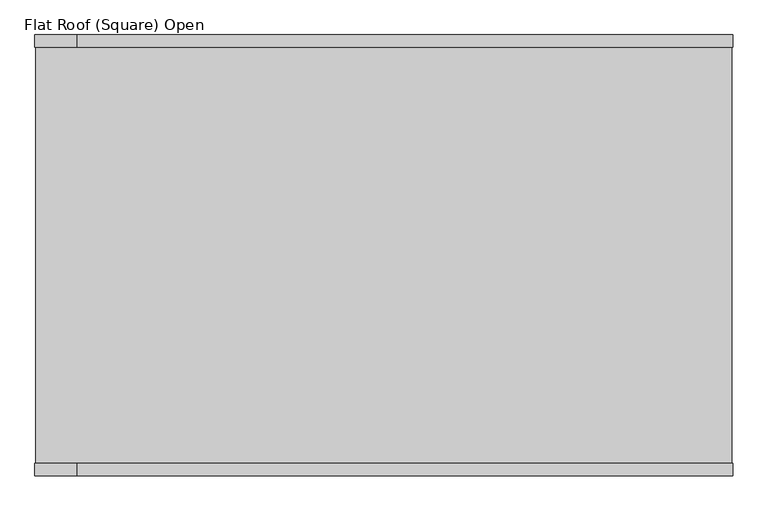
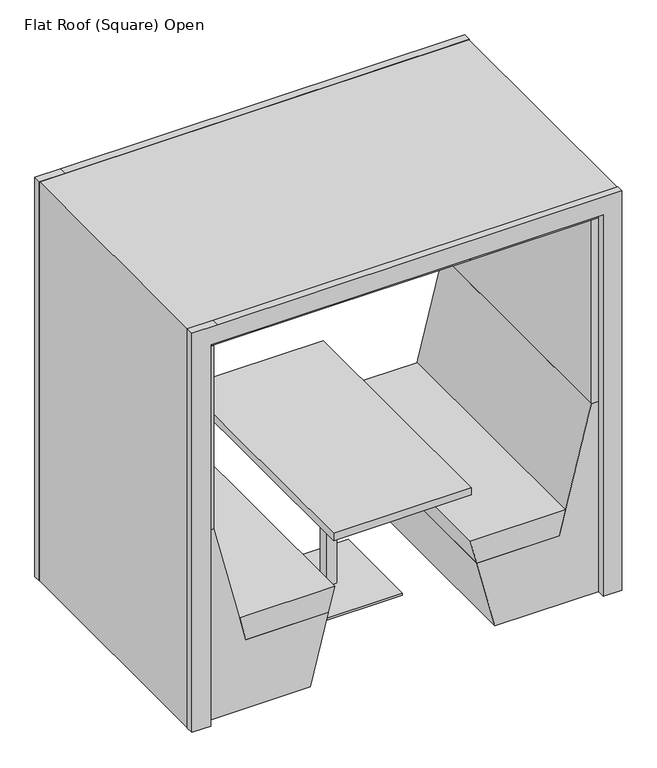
"""IFC4 building model written with IfcOpenShell, lengths in millimetres: furniture geometry, Furniture_WorkPod_Spacestor_RailwayCarriage : Flat Roof (Square) Open."""

from ifc_helpers import new_model, si_unit, point, frame, frame_2d, origin, origin_with_axes, place, context, project, spatial, polyline, circle_curve, trimmed, segment, composite_curve, outline, extrude, source, transform, mapped, element, save


def flat_roof_square_open_a961810b(model_context):
    return source(origin(), model_context, "Body", "SweptSolid", [
        extrude(outline(composite_curve([segment(trimmed(circle_curve(frame_2d((988.5, -1002.0)), 15.0), [point((973.5, -1002.0))], [point((1003.5, -1002.0))], False, "CARTESIAN"), True, "CONTINUOUS"), segment(trimmed(circle_curve(frame_2d((988.5, -1002.0)), 15.0), [point((1003.5, -1002.0))], [point((973.5, -1002.0))], False, "CARTESIAN"), True, "CONTINUOUS")], self_intersect=False)), origin_with_axes(), (0.0, 0.0, 1.0), 15.0),
        extrude(outline(composite_curve([segment(trimmed(circle_curve(frame_2d((-988.5, -1002.0)), 15.0), [point((-1003.5, -1002.0))], [point((-973.5, -1002.0))], False, "CARTESIAN"), True, "CONTINUOUS"), segment(trimmed(circle_curve(frame_2d((-988.5, -1002.0)), 15.0), [point((-973.5, -1002.0))], [point((-1003.5, -1002.0))], False, "CARTESIAN"), True, "CONTINUOUS")], self_intersect=False)), origin_with_axes(), (0.0, 0.0, 1.0), 15.0),
        extrude(outline(composite_curve([segment(trimmed(circle_curve(frame_2d((988.5, -167.0)), 15.0), [point((973.5, -167.0))], [point((1003.5, -167.0))], False, "CARTESIAN"), True, "CONTINUOUS"), segment(trimmed(circle_curve(frame_2d((988.5, -167.0)), 15.0), [point((1003.5, -167.0))], [point((973.5, -167.0))], False, "CARTESIAN"), True, "CONTINUOUS")], self_intersect=False)), origin_with_axes(), (0.0, 0.0, 1.0), 15.0),
        extrude(outline(composite_curve([segment(trimmed(circle_curve(frame_2d((-988.5, -167.0)), 15.0), [point((-1003.5, -167.0))], [point((-973.5, -167.0))], False, "CARTESIAN"), True, "CONTINUOUS"), segment(trimmed(circle_curve(frame_2d((-988.5, -167.0)), 15.0), [point((-973.5, -167.0))], [point((-1003.5, -167.0))], False, "CARTESIAN"), True, "CONTINUOUS")], self_intersect=False)), origin_with_axes(), (0.0, 0.0, 1.0), 15.0),
        extrude(outline(polyline([(3.0, 940.0), (3.0, 1030.0), (2025.0, 1030.0), (2025.0, -905.5), (2025.0, -1030.0), (3.0, -1030.0), (3.0, -940.0), (1935.0, -940.0), (1935.0, 940.0), (3.0, 940.0)])), frame((0.0, 0.0, 0.0), z_axis=(0.0, 1.0, 0.0), x_axis=(0.0, 0.0, 1.0)), (0.0, 0.0, 1.0), 36.0),
        extrude(outline(polyline([(3.0, 940.0), (3.0, 1030.0), (2025.0, 1030.0), (2025.0, -905.5), (2025.0, -1030.0), (3.0, -1030.0), (3.0, -940.0), (1935.0, -940.0), (1935.0, 940.0), (3.0, 940.0)])), frame((0.0, -1266.0, 0.0), z_axis=(0.0, 1.0, 0.0), x_axis=(0.0, 0.0, 1.0)), (0.0, 0.0, 1.0), 36.0),
        extrude(outline(polyline([(-323.7, -1230.0), (-966.5, -1230.0), (-966.5, 0.0), (-323.7, 0.0), (-323.7, -1230.0)])), frame((0.0, 0.0, 1899.5), z_axis=(0.0, 0.0, 1.0), x_axis=(1.0, 0.0, 0.0)), (0.0, 0.0, 1.0), 62.0),
        extrude(outline(polyline([(966.5, -1230.0), (323.7, -1230.0), (323.7, 0.0), (966.5, 0.0), (966.5, -1230.0)])), frame((0.0, 0.0, 1899.5), z_axis=(0.0, 0.0, 1.0), x_axis=(1.0, 0.0, 0.0)), (0.0, 0.0, 1.0), 62.0),
        extrude(outline(polyline([(-904.5, -1230.0), (-966.5, -1230.0), (-966.5, 0.0), (-904.5, 0.0), (-904.5, -1230.0)])), frame((0.0, 0.0, 969.0), z_axis=(0.0, 0.0, 1.0), x_axis=(1.0, 0.0, 0.0)), (0.0, 0.0, 1.0), 930.5),
        extrude(outline(polyline([(966.5, -1230.0), (904.5, -1230.0), (904.5, 0.0), (966.5, 0.0), (966.5, -1230.0)])), frame((0.0, 0.0, 969.0), z_axis=(0.0, 0.0, 1.0), x_axis=(1.0, 0.0, 0.0)), (0.0, 0.0, 1.0), 930.5),
        extrude(outline(polyline([(323.7, -1230.0), (-323.7, -1230.0), (-323.7, 0.0), (323.7, 0.0), (323.7, -1230.0)])), frame((0.0, 0.0, 1899.5), z_axis=(0.0, 0.0, 1.0), x_axis=(1.0, 0.0, 0.0)), (0.0, 0.0, 1.0), 62.0),
        extrude(outline(polyline([(354.0, -750.5348655), (354.0, -355.6348655), (475.0, -325.4661771), (475.0, -780.6245423), (354.0, -750.5348655)])), frame((0.0, -1230.0, 0.0), z_axis=(0.0, 1.0, 0.0), x_axis=(0.0, 0.0, 1.0)), (0.0, 0.0, 1.0), 1230.0),
        extrude(outline(polyline([(354.0, 750.5348655), (475.0, 780.6245423), (475.0, 325.4661771), (354.0, 355.6348655), (354.0, 750.5348655)])), frame((0.0, -1230.0, 0.0), z_axis=(0.0, 1.0, 0.0), x_axis=(0.0, 0.0, 1.0)), (0.0, 0.0, 1.0), 1230.0),
        extrude(outline(polyline([(969.0, -903.47), (969.0, -967.0), (6.0, -967.0), (6.0, -442.4010105), (354.0, -355.6348655), (354.0, -750.5348655), (969.0, -903.47)])), frame((0.0, -1230.0, 0.0), z_axis=(0.0, 1.0, 0.0), x_axis=(0.0, 0.0, 1.0)), (0.0, 0.0, 1.0), 1230.0),
        extrude(outline(polyline([(969.0, 903.47), (354.0, 750.5348655), (354.0, 355.6348655), (6.0, 442.4010105), (6.0, 967.0), (969.0, 967.0), (969.0, 903.47)])), frame((0.0, -1230.0, 0.0), z_axis=(0.0, 1.0, 0.0), x_axis=(0.0, 0.0, 1.0)), (0.0, 0.0, 1.0), 1230.0),
        extrude(outline(polyline([(225.0, -390.0), (225.0, -840.0), (-225.0, -840.0), (-225.0, -390.0), (225.0, -390.0)])), origin_with_axes(), (0.0, 0.0, 1.0), 10.0),
        extrude(outline(polyline([(25.0, -590.0), (25.0, -640.0), (-25.0, -640.0), (-25.0, -590.0), (25.0, -590.0)])), frame((0.0, 0.0, 1.5), z_axis=(0.0, 0.0, 1.0), x_axis=(1.0, 0.0, 0.0)), (0.0, 0.0, 1.0), 705.0),
        extrude(outline(polyline([(330.0, 0.0), (330.0, -1230.0), (-330.0, -1230.0), (-330.0, 0.0), (330.0, 0.0)])), frame((0.0, 0.0, 708.0), z_axis=(0.0, 0.0, 1.0), x_axis=(1.0, 0.0, 0.0)), (0.0, 0.0, 1.0), 36.0),
        extrude(outline(polyline([(2005.0, 1010.0), (3.0, 1010.0), (3.0, 1028.0), (2023.0, 1028.0), (2023.0, -1028.0), (3.0, -1028.0), (3.0, -1010.0), (2005.0, -1010.0), (2005.0, 1010.0)])), frame((0.0, -1230.0, 0.0), z_axis=(0.0, 1.0, 0.0), x_axis=(0.0, 0.0, 1.0)), (0.0, 0.0, 1.0), 1230.0),
    ])


if __name__ == "__main__":
    model = new_model("IFC4")
    model_context = context("Model", 3, world=origin())
    ifc_project = project(units=[si_unit("LENGTHUNIT", "METRE", prefix="MILLI")], contexts=[model_context])
    site = spatial("IfcSite", under=ifc_project)
    building = spatial("IfcBuilding", under=site)
    placement = place(None, origin())
    flat_roof_square_open_shape = flat_roof_square_open_a961810b(model_context)
    element("IfcFurniture", 1, ObjectType="Furniture_WorkPod_Spacestor_RailwayCarriage : Flat Roof (Square) Open", at=placement, inside=building, context=model_context, shape_type="MappedRepresentation", body=[
        mapped(flat_roof_square_open_shape, transform((0.0, 0.0, 0.0), x_axis=(1.0, 0.0, 0.0), y_axis=(0.0, 1.0, 0.0), z_axis=(0.0, 0.0, 1.0))),
    ])
    save(model, "model.ifc")
